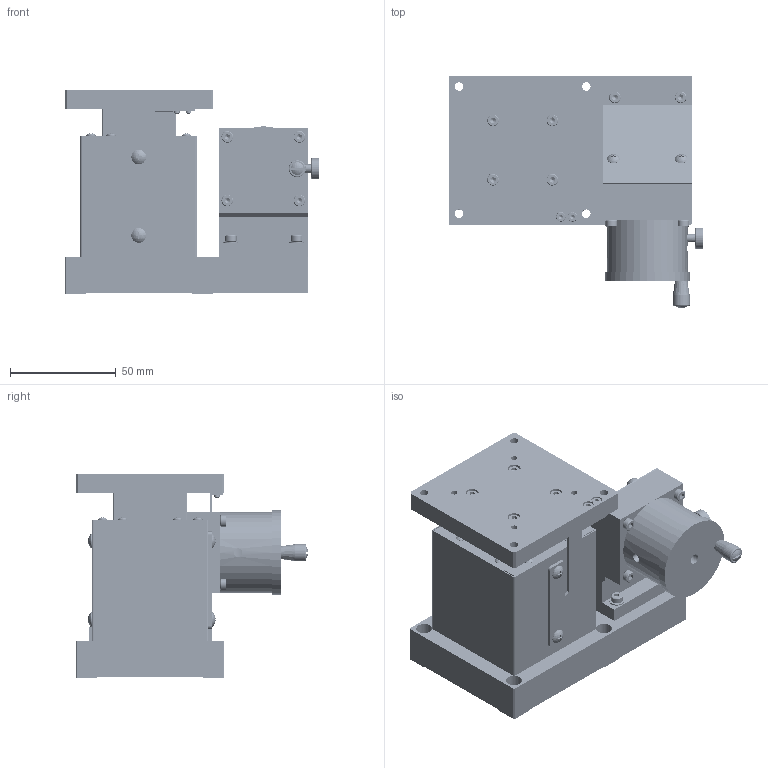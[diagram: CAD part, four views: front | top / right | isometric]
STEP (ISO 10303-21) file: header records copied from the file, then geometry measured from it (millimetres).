
FILE_DESCRIPTION (( 'STEP AP214' ), '1' );
FILE_NAME ('ZM07A-V1F.STEP', '2011-07-19T05:43:40', ( '' ), ( '' ), 'SwSTEP 2.0', 'SolidWorks 2011', '' );
FILE_SCHEMA (( 'AUTOMOTIVE_DESIGN' ));
Products named in the file (5): DP004491-1020-00-Part-1; DP004491-1020-00; DP004491-1010-00; DP004491-1010-00-Part-1; ZM07A-V1F
Assembly tree (4 placements, depth 3):
  ZM07A-V1F
    DP004491-1020-00
      DP004491-1020-00-Part-1
    DP004491-1010-00
      DP004491-1010-00-Part-1
Bounding box: 120.3 x 109.47 x 96 mm (x, y, z)
Volume: 416138 mm3; surface area: 150369.8 mm2
Topology: 2 solids, 185 shells, 6545 faces, 16597 edges, 10193 vertices
Faces by surface type: cylinder 2481, plane 2260, cone 1012, sphere 578, torus 210, bspline 4
Entity records: 204444 total; most frequent: CARTESIAN_POINT 47678, DIRECTION 34562, ORIENTED_EDGE 31900, EDGE_CURVE 15950, AXIS2_PLACEMENT_3D 13954, VERTEX_POINT 9964, CIRCLE 7467, EDGE_LOOP 7194
